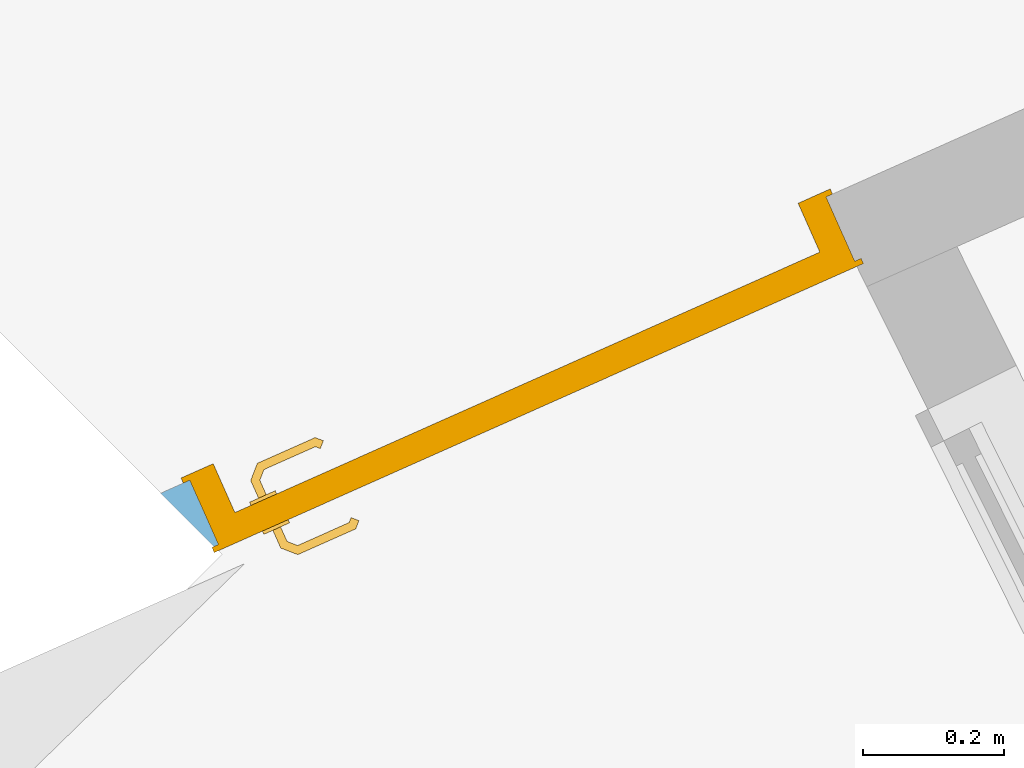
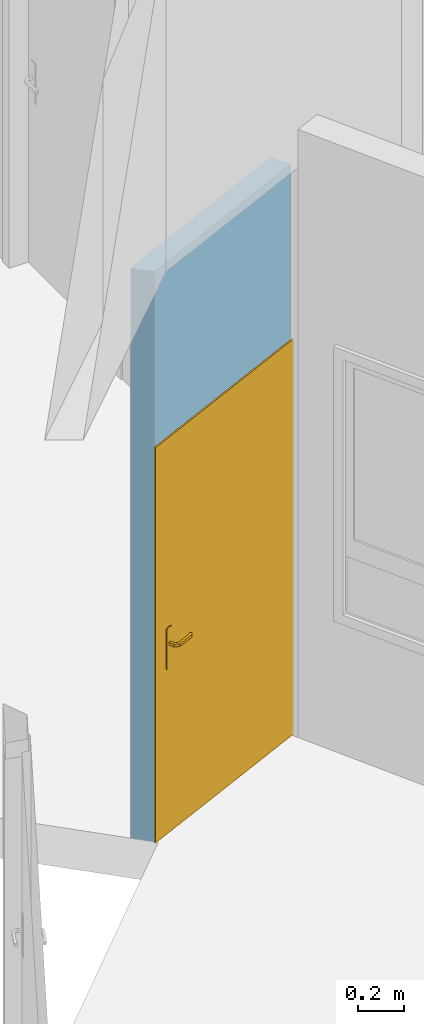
# One storey, part 36 of 44: 1 door, 1 opening, plus 1 element that does not belong to this part.
"""IFC2X3 building model written with IfcOpenShell, lengths in centimetres."""

from ifc_helpers import new_model, entity, si_unit, converted_unit, derived_unit, direction, frame, frame_2d, origin, place, context, subcontext, project, spatial, rectangle, extrude, faceted_brep, source, transform, mapped, material, material_list, type_object, type_shapes, element, fill, save


model = new_model("IFC2X3")

# Units and contexts
model_context = context("Model", 3, precision=0.001, world=origin(), true_north=direction((6.12303176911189e-17, 1.0)))
body_context = subcontext(model_context, "Body", "Model", "MODEL_VIEW")
ifc_project = project(units=[si_unit("LENGTHUNIT", "METRE", prefix="CENTI"), si_unit("AREAUNIT", "SQUARE_METRE"), si_unit("VOLUMEUNIT", "CUBIC_METRE"), converted_unit("PLANEANGLEUNIT", "DEGREE", entity("IfcRatioMeasure", 0.0174532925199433), si_unit("PLANEANGLEUNIT", "RADIAN"), dimensions=[0, 0, 0, 0, 0, 0, 0]), si_unit("MASSUNIT", "GRAM", prefix="KILO"), si_unit("TIMEUNIT", "SECOND"), si_unit("FREQUENCYUNIT", "HERTZ"), si_unit("THERMODYNAMICTEMPERATUREUNIT", "DEGREE_CELSIUS"), derived_unit("THERMALTRANSMITTANCEUNIT", [(si_unit("MASSUNIT", "GRAM", prefix="KILO"), 1), (si_unit("THERMODYNAMICTEMPERATUREUNIT", "KELVIN"), -1), (si_unit("TIMEUNIT", "SECOND"), -3)]), derived_unit("VOLUMETRICFLOWRATEUNIT", [(si_unit("LENGTHUNIT", "METRE"), 3), (si_unit("TIMEUNIT", "SECOND"), -1)]), si_unit("ELECTRICCURRENTUNIT", "AMPERE"), si_unit("ELECTRICVOLTAGEUNIT", "VOLT"), si_unit("POWERUNIT", "WATT"), si_unit("FORCEUNIT", "NEWTON", prefix="KILO"), si_unit("ILLUMINANCEUNIT", "LUX"), si_unit("LUMINOUSFLUXUNIT", "LUMEN"), si_unit("LUMINOUSINTENSITYUNIT", "CANDELA"), derived_unit("USERDEFINED", [(si_unit("MASSUNIT", "GRAM", prefix="KILO"), -1), (si_unit("LENGTHUNIT", "METRE"), -2), (si_unit("TIMEUNIT", "SECOND"), 3), (si_unit("LUMINOUSFLUXUNIT", "LUMEN"), 1)]), derived_unit("LINEARVELOCITYUNIT", [(si_unit("LENGTHUNIT", "METRE"), 1), (si_unit("TIMEUNIT", "SECOND"), -1)]), si_unit("PRESSUREUNIT", "PASCAL"), derived_unit("USERDEFINED", [(si_unit("LENGTHUNIT", "METRE"), -2), (si_unit("MASSUNIT", "GRAM", prefix="KILO"), 1), (si_unit("TIMEUNIT", "SECOND"), -2)])], contexts=[model_context])

# Site, building, storey
site_placement = place(None, frame((8.62739174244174, -249.285249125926, 0.0)))
site = spatial("IfcSite", under=ifc_project, at=site_placement, Name="Default", CompositionType="ELEMENT")
building_placement = place(site_placement, origin())
building = spatial("IfcBuilding", under=site, at=building_placement, CompositionType="ELEMENT")
storey_placement = place(building_placement, frame((0.0, 0.0, 343.0)))
storey = spatial("IfcBuildingStorey", under=building, at=storey_placement, Name="R+1", CompositionType="ELEMENT", Elevation=343.0)

# Wall, opening, door
ifc_material_1 = material(Name="Plâtre")
wall_type = type_object("IfcWallType", Name="Mur de base:Int. plâtre 100 mm", PredefinedType="NOTDEFINED")
wall_placement = place(storey_placement, frame((2947.03689963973, 1132.31997812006, 0.0), z_axis=(0.0, 0.0, 1.0), x_axis=(-0.913545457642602, -0.406736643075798, 0.0)))
wall = element("IfcWall", 1, at=wall_placement, inside=storey, type_object=wall_type, material=ifc_material_1, Name="Mur de base:Int. plâtre 100 mm", ObjectType="Mur de base:Int. plâtre 100 mm", context=body_context, shape_type="Brep", body=[
    faceted_brep([(103.47513521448, -5.0, 300.0), (0.430555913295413, -5.0, 300.0), (0.430555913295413, -5.0, 207.0), (98.935840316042, -5.0, 207.0), (98.9358403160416, -5.0, 0.0), (103.47513521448, -5.0, 0.0), (0.0, 5.0, 300.0), (99.6364948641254, 5.0, 300.0), (99.6364948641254, 5.0, 0.0), (98.9358403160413, 5.0, 0.0), (98.9358403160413, 5.0, 207.0), (0.0, 5.0, 207.0)], [[[0, 1, 2, 3, 4, 5]], [[6, 7, 8, 9, 10, 11]], [[8, 5, 4, 9]], [[1, 0, 7, 6]], [[1, 6, 11, 2]], [[0, 5, 8, 7]], [[10, 3, 2, 11]], [[3, 10, 9, 4]]]),
])
opening_placement = place(wall_placement, frame((-0.0641596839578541, -5.0, 0.0)))
opening = element("IfcOpeningElement", 2, at=opening_placement, cuts=wall, Name="Simple(R)_bois_Existant_mu:93 x 204 cm:1", ObjectType="Opening", context=body_context, shape_type="SweptSolid", body=[
    extrude(rectangle(XDim=206.999999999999, YDim=98.9999999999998, at=frame_2d((103.499999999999, 49.5), x_axis=(1.0, 0.0))), frame((0.0, 0.0, 0.0), z_axis=(0.0, 1.0, 0.0), x_axis=(0.0, 0.0, 1.0)), (0.0, 0.0, 1.0), 10.0),
])
ifc_material_2 = material(Name="Porte - Poignée")
ifc_material_3 = material(Name="Porte - Cadre")
ifc_material_4 = material(Name="Porte - Panneau")
ifc_material_list_1 = material_list([ifc_material_2, ifc_material_3, ifc_material_4])
ifc_material_list_2 = material_list([ifc_material_2, ifc_material_3, ifc_material_4])
door_style = type_object("IfcDoorStyle", Name="93 x 204 cm", ConstructionType="NOTDEFINED", OperationType="SINGLE_SWING_RIGHT", ParameterTakesPrecedence=False, Sizeable=False, material=ifc_material_list_2)
shared_shape = source(origin(), body_context, "Body", "Brep", [
    faceted_brep([(8.29747013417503, 3.69999999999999, 100.778044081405), (7.89999999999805, 3.69999999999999, 100.699999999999), (7.89999999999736, 3.69999999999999, 99.2999999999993), (8.29747013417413, 3.69999999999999, 99.2219559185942), (8.70252986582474, 3.69999999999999, 99.2219559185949), (9.10000000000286, 3.69999999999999, 99.3000000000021), (9.10000000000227, 3.69999999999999, 100.699999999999), (8.70252986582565, 3.69999999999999, 100.778044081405), (9.10000000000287, 5.94852045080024, 99.3000000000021), (9.10000000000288, 5.94852045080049, 100.699999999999), (8.70252986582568, 6.1131579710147, 100.778044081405), (10.0838906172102, 7.49451872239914, 100.778044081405), (9.91610938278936, 7.89957845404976, 100.778044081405), (8.29747013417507, 6.2809392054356, 100.778044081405), (19.0684749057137, 6.84673156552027, 100.778044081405), (19.3548953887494, 7.13315204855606, 100.778044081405), (18.5884689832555, 7.89957845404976, 100.778044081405), (18.4206877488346, 7.49451872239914, 100.778044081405), (7.89999999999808, 6.44557672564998, 100.699999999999), (7.89999999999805, 6.44557672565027, 99.2999999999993), (8.29747013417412, 6.28093920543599, 99.2219559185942), (9.91610938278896, 7.8995784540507, 99.2219559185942), (10.0838906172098, 7.49451872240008, 99.2219559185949), (8.70252986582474, 6.11315797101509, 99.2219559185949), (19.35489538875, 7.1331520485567, 99.2219559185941), (19.0684749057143, 6.84673156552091, 99.2219559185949), (18.420687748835, 7.49451872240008, 99.2219559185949), (18.5884689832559, 7.8995784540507, 99.2219559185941), (10.2485281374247, 7.09704858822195, 99.3000000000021), (10.2485281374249, 7.09704858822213, 100.699999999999), (9.75147186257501, 8.29704858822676, 100.699999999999), (9.75147186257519, 8.29704858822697, 99.2999999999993), (14.2522904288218, 7.09704858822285, 99.3000000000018), (18.2560502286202, 7.09704858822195, 99.3000000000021), (18.2560502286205, 7.09704858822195, 100.699999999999), (14.2522891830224, 7.09704858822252, 100.699999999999), (14.2522891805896, 7.71249275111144, 100.787811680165), (18.7531065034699, 8.29704858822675, 100.699999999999), (14.760057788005, 8.29704858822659, 100.699999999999), (18.7531065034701, 8.29704858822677, 99.2999999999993), (13.7445206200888, 8.29704858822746, 99.2999999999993), (14.2522892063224, 7.71249274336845, 99.2121883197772), (18.787421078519, 6.56567773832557, 99.3000000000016), (19.6359492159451, 7.41420587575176, 99.2999999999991), (19.6359492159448, 7.4142058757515, 100.699999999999), (18.7874210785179, 6.5656777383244, 100.699999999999)], [[[0, 1, 2, 3, 4, 5, 6, 7]], [[6, 5, 8, 9]], [[9, 10, 7, 6]], [[10, 11, 12, 13, 0, 7]], [[14, 15, 16, 17]], [[13, 18, 1, 0]], [[2, 1, 18, 19]], [[19, 20, 3, 2]], [[20, 21, 22, 23, 4, 3]], [[24, 25, 26, 27]], [[23, 8, 5, 4]], [[9, 8, 28, 29]], [[29, 11, 10, 9]], [[12, 30, 18, 13]], [[19, 18, 30, 31]], [[31, 21, 20, 19]], [[22, 28, 8, 23]], [[29, 28, 32, 33, 34, 35]], [[11, 35, 36]], [[16, 37, 38]], [[30, 12, 38]], [[38, 12, 36]], [[36, 35, 17]], [[17, 16, 36]], [[35, 11, 29]], [[34, 17, 35]], [[11, 36, 12]], [[38, 36, 16]], [[31, 30, 38, 37, 39, 40]], [[40, 41, 21]], [[41, 40, 27]], [[21, 31, 40]], [[39, 27, 40]], [[41, 32, 22]], [[22, 21, 41]], [[26, 32, 41]], [[28, 22, 32]], [[32, 26, 33]], [[26, 41, 27]], [[42, 25, 24, 43, 44, 15, 14, 45]], [[34, 33, 42, 45]], [[45, 14, 17, 34]], [[15, 44, 37, 16]], [[39, 37, 44, 43]], [[43, 24, 27, 39]], [[25, 42, 33, 26]]]),
    faceted_brep([(8.29747013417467, -1.30000000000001, 100.778044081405), (8.7025298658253, -1.30000000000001, 100.778044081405), (9.10000000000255, -1.30000000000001, 100.699999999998), (9.10000000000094, -1.30000000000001, 99.3000000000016), (8.70252986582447, -1.30000000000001, 99.2219559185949), (8.29747013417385, -1.30000000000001, 99.2219559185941), (7.89999999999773, -1.30000000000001, 99.2999999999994), (7.89999999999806, -1.30000000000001, 100.699999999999), (7.89999999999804, -4.06509507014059, 100.699999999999), (8.29747013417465, -3.90045754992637, 100.778044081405), (9.90235851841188, -5.50534593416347, 100.778044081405), (10.0701397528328, -5.10028620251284, 100.778044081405), (8.70252986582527, -3.73267631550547, 100.778044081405), (19.3521810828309, -4.73891952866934, 100.778044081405), (19.0657605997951, -4.4524990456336, 100.778044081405), (18.417973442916, -5.10028620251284, 100.778044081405), (18.5857546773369, -5.50534593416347, 100.778044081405), (9.10000000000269, -3.56803879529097, 100.699999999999), (9.10000000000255, -3.56803879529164, 99.3000000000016), (8.70252986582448, -3.7326763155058, 99.2219559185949), (10.0701397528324, -5.10028620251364, 99.2219559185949), (9.90235851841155, -5.50534593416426, 99.2219559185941), (8.29747013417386, -3.9004575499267, 99.2219559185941), (19.0657605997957, -4.45249904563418, 99.2219559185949), (19.3521810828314, -4.73891952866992, 99.2219559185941), (18.5857546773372, -5.50534593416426, 99.2219559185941), (18.4179734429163, -5.10028620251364, 99.2219559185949), (7.89999999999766, -4.06509507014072, 99.2999999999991), (9.73772099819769, -5.90281606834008, 100.699999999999), (10.2347772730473, -4.70281606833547, 100.699999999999), (10.2347772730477, -4.70281606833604, 99.3000000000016), (9.7377209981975, -5.90281606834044, 99.2999999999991), (13.7307697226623, -5.90281606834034, 100.699999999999), (14.2440566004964, -5.31828027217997, 100.787811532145), (18.7503921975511, -5.90281606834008, 100.699999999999), (14.2440565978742, -4.70281606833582, 100.699999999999), (18.2533359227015, -4.70281606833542, 100.699999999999), (18.2533359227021, -4.70281606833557, 99.3000000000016), (14.2440563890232, -4.70281606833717, 99.3000000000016), (14.2440565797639, -5.31828027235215, 99.2121884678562), (18.7503921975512, -5.90281606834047, 99.2999999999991), (14.7573433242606, -5.90281606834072, 99.2999999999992), (18.7847067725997, -4.1714452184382, 100.699999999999), (19.6332349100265, -5.01997335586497, 100.699999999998), (19.633234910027, -5.01997335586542, 99.2999999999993), (18.7847067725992, -4.17144521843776, 99.3000000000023)], [[[0, 1, 2, 3, 4, 5, 6, 7]], [[8, 9, 0, 7]], [[9, 10, 11, 12, 1, 0]], [[13, 14, 15, 16]], [[12, 17, 2, 1]], [[3, 2, 17, 18]], [[18, 19, 4, 3]], [[19, 20, 21, 22, 5, 4]], [[23, 24, 25, 26]], [[22, 27, 6, 5]], [[7, 6, 27, 8]], [[28, 10, 9, 8]], [[11, 29, 17, 12]], [[18, 17, 29, 30]], [[30, 20, 19, 18]], [[21, 31, 27, 22]], [[8, 27, 31, 28]], [[32, 33, 10]], [[33, 32, 16]], [[10, 28, 32]], [[34, 16, 32]], [[33, 35, 11]], [[11, 10, 33]], [[15, 35, 33]], [[29, 11, 35]], [[35, 15, 36]], [[15, 33, 16]], [[30, 29, 35, 36, 37, 38]], [[20, 38, 39]], [[25, 40, 41]], [[31, 21, 41]], [[41, 21, 39]], [[39, 38, 26]], [[26, 25, 39]], [[38, 20, 30]], [[37, 26, 38]], [[20, 39, 21]], [[41, 39, 25]], [[28, 31, 41, 40, 34, 32]], [[42, 14, 13, 43, 44, 24, 23, 45]], [[43, 13, 16, 34]], [[14, 42, 36, 15]], [[37, 36, 42, 45]], [[45, 23, 26, 37]], [[24, 44, 40, 25]], [[34, 40, 44, 43]]]),
    faceted_brep([(9.53527618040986, 3.19999999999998, 86.6003983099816), (10.4999999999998, 3.19999999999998, 87.0), (10.4999999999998, 3.19999999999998, 108.0), (9.53527618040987, 3.19999999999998, 108.399601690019), (8.49999999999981, 3.19999999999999, 108.535898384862), (7.46472381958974, 3.19999999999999, 108.399601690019), (6.49999999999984, 3.19999999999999, 108.0), (6.49999999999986, 3.19999999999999, 87.0), (7.46472381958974, 3.19999999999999, 86.6003983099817), (8.49999999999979, 3.19999999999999, 86.4641016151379), (9.53527618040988, 3.69999999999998, 108.399601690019), (10.4999999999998, 3.69999999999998, 108.0), (10.4999999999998, 3.69999999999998, 87.0), (9.53527618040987, 3.69999999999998, 86.6003983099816), (8.4999999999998, 3.69999999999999, 86.4641016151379), (7.46472381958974, 3.69999999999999, 86.6003983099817), (6.49999999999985, 3.69999999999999, 87.0), (6.49999999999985, 3.69999999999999, 108.0), (7.46472381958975, 3.69999999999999, 108.399601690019), (8.49999999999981, 3.69999999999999, 108.535898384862)], [[[0, 1, 2, 3, 4, 5, 6, 7, 8, 9]], [[10, 11, 12, 13, 14, 15, 16, 17, 18, 19]], [[11, 10, 3, 2]], [[3, 10, 19, 4]], [[19, 18, 5, 4]], [[18, 17, 6, 5]], [[7, 6, 17, 16]], [[16, 15, 8, 7]], [[8, 15, 14, 9]], [[14, 13, 0, 9]], [[13, 12, 1, 0]], [[2, 1, 12, 11]]]),
    faceted_brep([(9.53527618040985, -1.30000000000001, 86.6003983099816), (10.4999999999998, -1.30000000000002, 87.0), (10.4999999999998, -1.30000000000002, 108.0), (9.53527618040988, -1.30000000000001, 108.399601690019), (8.49999999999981, -1.30000000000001, 108.535898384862), (7.46472381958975, -1.30000000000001, 108.399601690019), (6.49999999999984, -1.3, 108.0), (6.49999999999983, -1.3, 87.0), (7.46472381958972, -1.30000000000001, 86.6003983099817), (8.49999999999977, -1.30000000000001, 86.4641016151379), (9.53527618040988, -0.800000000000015, 108.399601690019), (10.4999999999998, -0.800000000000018, 108.0), (10.4999999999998, -0.800000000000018, 87.0), (9.53527618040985, -0.800000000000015, 86.6003983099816), (8.49999999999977, -0.800000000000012, 86.4641016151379), (7.46472381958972, -0.800000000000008, 86.6003983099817), (6.49999999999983, -0.800000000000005, 87.0), (6.49999999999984, -0.800000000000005, 108.0), (7.46472381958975, -0.800000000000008, 108.399601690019), (8.49999999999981, -0.800000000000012, 108.535898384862)], [[[0, 1, 2, 3, 4, 5, 6, 7, 8, 9]], [[10, 11, 12, 13, 14, 15, 16, 17, 18, 19]], [[16, 15, 8, 7]], [[8, 15, 14, 9]], [[14, 13, 0, 9]], [[13, 12, 1, 0]], [[2, 1, 12, 11]], [[11, 10, 3, 2]], [[3, 10, 19, 4]], [[19, 18, 5, 4]], [[18, 17, 6, 5]], [[7, 6, 17, 16]]]),
    faceted_brep([(0.0, 0.0, 0.0), (0.0, 10.0, 0.0), (-1.0, 10.0, 0.0), (-1.0, 10.8000000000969, 0.0), (4.0, 10.8000000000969, 0.0), (4.0, 3.2, 0.0), (3.0, 3.2, 0.0), (3.0, -0.799999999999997, 0.0), (-1.0, -0.799999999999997, 0.0), (-1.0, 0.0, 0.0), (0.0, 0.0, 207.0), (0.0, 10.0, 207.0), (99.0, 10.0, 207.0), (99.0, 10.0, 0.0), (100.0, 10.0, 0.0), (100.0, 10.0, 208.0), (-1.0, 10.0, 208.0), (-1.0, 10.8000000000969, 208.0), (100.0, 10.8000000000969, 208.0), (100.0, 10.8000000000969, 0.0), (95.0, 10.8000000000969, 0.0), (95.0, 10.8000000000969, 203.0), (4.0, 10.8000000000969, 203.0), (4.0, 3.2, 203.0), (95.0, 3.2, 203.0), (95.0, 3.2, 0.0), (96.0, 3.2, 0.0), (96.0, 3.2, 204.0), (3.0, 3.2, 204.0), (3.0, -0.799999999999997, 204.0), (96.0, -0.799999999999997, 204.0), (96.0, -0.799999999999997, 0.0), (100.0, -0.799999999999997, 0.0), (100.0, -0.799999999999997, 208.0), (-1.0, -0.799999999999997, 208.0), (-1.0, 0.0, 208.0), (100.0, 0.0, 208.0), (100.0, 0.0, 0.0), (99.0, 0.0, 0.0), (99.0, 0.0, 207.0)], [[[0, 1, 2, 3, 4, 5, 6, 7, 8, 9]], [[1, 0, 10, 11]], [[2, 1, 11, 12, 13, 14, 15, 16]], [[3, 2, 16, 17]], [[4, 3, 17, 18, 19, 20, 21, 22]], [[5, 4, 22, 23]], [[6, 5, 23, 24, 25, 26, 27, 28]], [[7, 6, 28, 29]], [[8, 7, 29, 30, 31, 32, 33, 34]], [[9, 8, 34, 35]], [[0, 9, 35, 36, 37, 38, 39, 10]], [[12, 39, 38, 13]], [[38, 37, 32, 31, 26, 25, 20, 19, 14, 13]], [[18, 15, 14, 19]], [[24, 21, 20, 25]], [[30, 27, 26, 31]], [[36, 33, 32, 37]], [[11, 10, 39, 12]], [[17, 16, 15, 18]], [[23, 22, 21, 24]], [[29, 28, 27, 30]], [[35, 34, 33, 36]]]),
    faceted_brep([(3.0, -0.799999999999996, 204.0), (3.0, -0.799999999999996, 0.0), (96.0, -0.799999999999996, 0.0), (96.0, -0.799999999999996, 204.0), (3.0, 3.2, 204.0), (96.0, 3.2, 204.0), (96.0, 3.2, 0.0), (3.0, 3.2, 0.0)], [[[0, 1, 2, 3]], [[4, 5, 6, 7]], [[1, 0, 4, 7]], [[2, 1, 7, 6]], [[3, 2, 6, 5]], [[0, 3, 5, 4]]]),
])
type_shapes(door_style, [shared_shape])
door_placement = place(opening_placement, frame((99.0, 10.0, 0.0), z_axis=(0.0, 0.0, 1.0), x_axis=(-1.0, 0.0, 0.0)))
door = element("IfcDoor", 3, at=door_placement, inside=storey, type_object=door_style, material=ifc_material_list_1, Name="Simple(R)_bois_Existant_mu:93 x 204 cm", ObjectType="93 x 204 cm", OverallHeight=206.999999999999, OverallWidth=98.9999999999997, context=body_context, shape_type="MappedRepresentation", body=[
    mapped(shared_shape, transform((0.0, 0.0, 0.0), scale=1.0)),
])
fill(opening, door)

save(model, "model.ifc")
